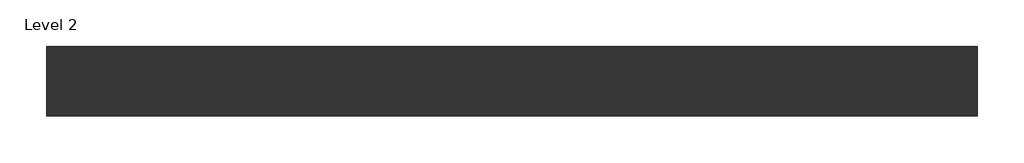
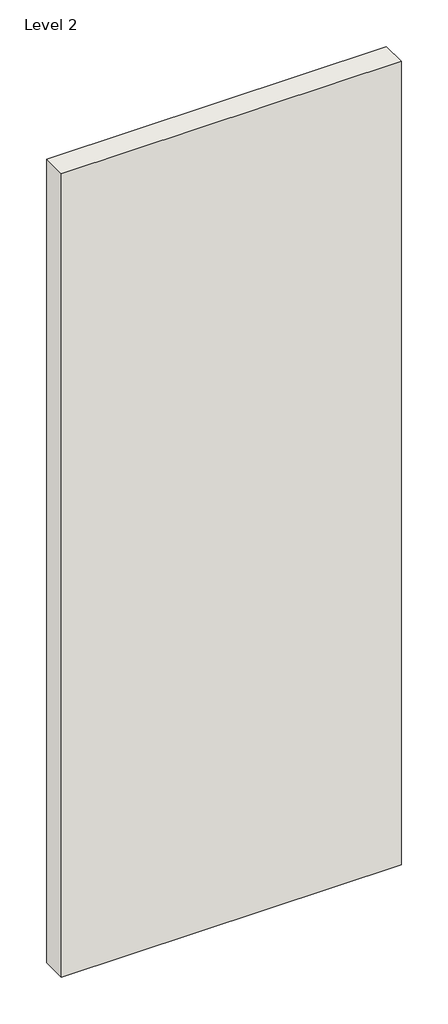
# One storey: 1 wall.
"""IFC4 building model written with IfcOpenShell, lengths in millimetres."""

import ifcopenshell
import ifcopenshell.guid

model = None  # the IFC model being written
_history = None  # IfcOwnerHistory: only IFC2X3 demands one
_inside = {}  # id of a spatial element -> (the spatial element, [elements in it])
_under = {}  # id of a project, library or spatial element -> (it, [spatial elements below it])
_declared = {}  # id of a project -> (the project, [libraries it declares])
_typed = {}  # id of a type object -> (the type object, [elements of that type])
_made_of = {}  # id of a material, layer set ... -> (it, [elements and type objects made of it])


def new_model(schema):
    """Start an empty IFC model of exactly this schema.

    Asked for "IFC4X3", IfcOpenShell would pick the latest addendum, in which some entities
    have other attributes; the version numbers below select the first issue.
    IFC2X3 requires an IfcOwnerHistory on every rooted entity: one is made here for all.
    """
    global model, _history
    if schema == "IFC4X3":
        model = ifcopenshell.file(schema_version=(4, 3, 0, 0))
    else:
        model = ifcopenshell.file(schema=schema)
    _inside.clear()
    _under.clear()
    _declared.clear()
    _typed.clear()
    _made_of.clear()
    _history = None
    if model.schema == "IFC2X3":
        org = make("IfcOrganization", Name="unknown")
        user = make(
            "IfcPersonAndOrganization",
            ThePerson=make("IfcPerson", FamilyName="unknown"),
            TheOrganization=org,
        )
        app = make(
            "IfcApplication",
            ApplicationDeveloper=org,
            Version="unknown",
            ApplicationFullName="unknown",
            ApplicationIdentifier="unknown",
        )
        _history = make(
            "IfcOwnerHistory",
            OwningUser=user,
            OwningApplication=app,
            ChangeAction="ADDED",
            CreationDate=0,
        )
    return model


def make(cls, **values):
    """One entity of the class cls with the attributes given. An attribute that is None is left unset."""
    return model.create_entity(
        cls, **{name: value for name, value in values.items() if value is not None}
    )


def rooted(cls, **values):
    """An entity with a GlobalId (a new one), such as an element, a storey or a relation."""
    return make(cls, GlobalId=ifcopenshell.guid.new(), OwnerHistory=_history, **values)


def si_unit(unit_type, name, prefix=None):
    """IfcSIUnit, for example si_unit("LENGTHUNIT", "METRE", prefix="MILLI")."""
    return make("IfcSIUnit", UnitType=unit_type, Prefix=prefix, Name=name)


def assignment(units):
    """IfcUnitAssignment: the units of a project."""
    return None if units is None else make("IfcUnitAssignment", Units=units)


def point(xyz):
    """IfcCartesianPoint."""
    return None if xyz is None else make("IfcCartesianPoint", Coordinates=xyz)


def direction(xyz):
    """IfcDirection."""
    return None if xyz is None else make("IfcDirection", DirectionRatios=xyz)


def frame(location, z_axis=None, x_axis=None):
    """IfcAxis2Placement3D, a coordinate frame: its origin and axes. An axis left out is left unset."""
    return make(
        "IfcAxis2Placement3D",
        Location=point(location),
        Axis=direction(z_axis),
        RefDirection=direction(x_axis),
    )


def origin():
    """The frame at (0, 0, 0) with its axes left unset."""
    return frame((0.0, 0.0, 0.0))


def place(relative_to, where):
    """IfcLocalPlacement: puts the frame where relative to a parent placement (None: the world)."""
    return make(
        "IfcLocalPlacement", PlacementRelTo=relative_to, RelativePlacement=where
    )


def context(
    kind, dimensions, precision=None, world=None, true_north=None, identifier=None
):
    """IfcGeometricRepresentationContext, for example the 3D "Model" context."""
    return make(
        "IfcGeometricRepresentationContext",
        ContextIdentifier=identifier,
        ContextType=kind,
        CoordinateSpaceDimension=dimensions,
        Precision=precision,
        WorldCoordinateSystem=world,
        TrueNorth=true_north,
    )


def project(units=None, contexts=None):
    """IfcProject with its units and contexts."""
    return rooted(
        "IfcProject",
        Name="project",
        RepresentationContexts=contexts,
        UnitsInContext=assignment(units),
    )


def spatial(cls, under=None, at=None, **own):
    """A site, building, storey or space (cls), placed at a placement, below another one or the project."""
    s = rooted(cls, ObjectPlacement=at, **own)
    if under is not None:
        _under.setdefault(under.id(), (under, []))[1].append(s)
    return s


def polyline(points):
    """IfcPolyline through the points."""
    return make("IfcPolyline", Points=[point(p) for p in points])


def outline(outer, holes=None, kind="AREA"):
    """IfcArbitraryClosedProfileDef: a profile drawn as a closed curve; with holes, ...WithVoids."""
    if holes is None:
        return make("IfcArbitraryClosedProfileDef", ProfileType=kind, OuterCurve=outer)
    return make(
        "IfcArbitraryProfileDefWithVoids",
        ProfileType=kind,
        OuterCurve=outer,
        InnerCurves=holes,
    )


def extrude(swept, where, along, depth):
    """IfcExtrudedAreaSolid: the profile swept, set in the frame where, extruded along a direction by depth."""
    return make(
        "IfcExtrudedAreaSolid",
        SweptArea=swept,
        Position=where,
        ExtrudedDirection=direction(along),
        Depth=depth,
    )


def shape(context_of_items, identifier, shape_type, items):
    """IfcShapeRepresentation: the items that make up one representation, for example the "Body"."""
    return make(
        "IfcShapeRepresentation",
        ContextOfItems=context_of_items,
        RepresentationIdentifier=identifier,
        RepresentationType=shape_type,
        Items=items,
    )


def made_of(thing, what):
    """Note that an element or type object is made of a material, layer set ...; save() writes the relation."""
    if what is not None:
        _made_of.setdefault(what.id(), (what, []))[1].append(thing)
    return thing


def element(
    cls,
    number,
    at=None,
    inside=None,
    cuts=None,
    type_object=None,
    material=None,
    context=None,
    identifier="Body",
    shape_type=None,
    held_by="IfcProductDefinitionShape",
    body=None,
    shapes=None,
    **own,
):
    """One element of the class cls, such as IfcWall. Its Tag is "e" and its number.

    at: its placement. inside: the storey or other place that contains it. cuts: it is an
    opening in that element (IfcRelVoidsElement). A single representation is given by context,
    identifier, shape_type and body (its items); several are given by shapes. held_by: the class
    of the entity that holds the representations. save() writes the other relations.
    """
    e = rooted(cls, Tag="e%d" % number, ObjectPlacement=at, **own)
    if body is not None:
        shapes = [shape(context, identifier, shape_type, body)]
    if shapes is not None:
        e.Representation = make(held_by, Representations=shapes)
    if inside is not None:
        _inside.setdefault(inside.id(), (inside, []))[1].append(e)
    if cuts is not None:
        rooted(
            "IfcRelVoidsElement", RelatingBuildingElement=cuts, RelatedOpeningElement=e
        )
    if type_object is not None:
        _typed.setdefault(type_object.id(), (type_object, []))[1].append(e)
    return made_of(e, material)


def aggregate(whole, parts):
    """IfcRelAggregates: a whole, such as a stair, and the parts it consists of."""
    return rooted("IfcRelAggregates", RelatingObject=whole, RelatedObjects=parts)


def save(model, path):
    """Write the relations noted so far, then the file.

    IfcRelAggregates (storeys below a building ...), IfcRelContainedInSpatialStructure (elements
    in a storey), IfcRelDefinesByType, IfcRelAssociatesMaterial and IfcRelDeclares: one each for
    every whole, place, type object, material and project.
    """
    for whole, parts in _under.values():
        aggregate(whole, parts)
    for where, things in _inside.values():
        rooted(
            "IfcRelContainedInSpatialStructure",
            RelatedElements=things,
            RelatingStructure=where,
        )
    for kind, things in _typed.values():
        rooted("IfcRelDefinesByType", RelatedObjects=things, RelatingType=kind)
    for what, things in _made_of.values():
        rooted("IfcRelAssociatesMaterial", RelatedObjects=things, RelatingMaterial=what)
    for by, libraries in _declared.values():
        rooted("IfcRelDeclares", RelatingContext=by, RelatedDefinitions=libraries)
    model.write(path)


model = new_model("IFC4")

# Units and contexts
model_context = context("Model", 3, world=origin())
ifc_project = project(units=[si_unit("LENGTHUNIT", "METRE", prefix="MILLI")], contexts=[model_context])

# Site, building, storey
site = spatial("IfcSite", under=ifc_project)
building = spatial("IfcBuilding", under=site)
storey = spatial("IfcBuildingStorey", under=building, Name="Level 2", Elevation=4000.0)

# Wall
placement = place(None, origin())
element("IfcWall", 1, ObjectType="RIGIPS - 3.21.10 AKU (75)", at=placement, inside=storey, context=model_context, shape_type="SweptSolid", body=[
    extrude(outline(polyline([(1000.0, -37.5), (0.0, -37.5), (0.0, 37.5), (1000.0, 37.5), (1000.0, -37.5)])), frame((0.0, 0.0, 4000.0), z_axis=(0.0, 0.0, 1.0), x_axis=(1.0, 0.0, 0.0)), (0.0, 0.0, 1.0), 2500.0),
])

save(model, "model.ifc")
